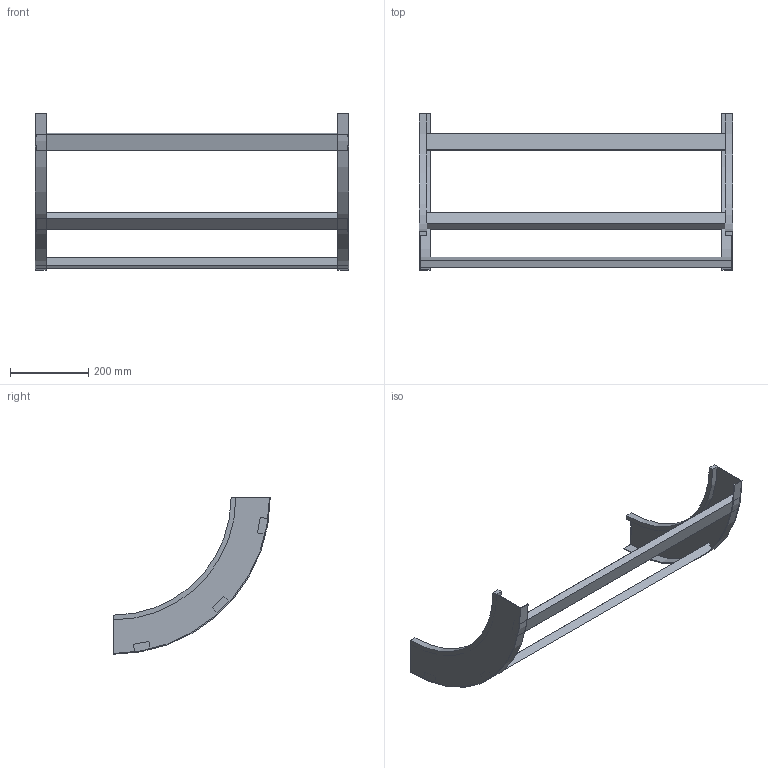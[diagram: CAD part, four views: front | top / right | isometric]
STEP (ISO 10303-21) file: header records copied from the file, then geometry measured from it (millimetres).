
FILE_DESCRIPTION (( 'STEP AP214' ), '1' );
FILE_NAME ('B2X30B3D800XX.step', '2025-03-20T10:20:29', ( '' ), ( '' ), 'SwSTEP 2.0', 'SolidWorks 2023', '' );
FILE_SCHEMA (( 'AUTOMOTIVE_DESIGN' ));
Length unit declared in the file: millimetre
Products named in the file (3): TRAVERSINO_800; B2X30B3D800XX; B2_LONGH.SALITA_90°_H100_R300
Assembly tree (5 placements, depth 2):
  B2X30B3D800XX
    B2_LONGH.SALITA_90°_H100_R300  x2
    TRAVERSINO_800  x3
Bounding box: 800 x 400 x 400 mm (x, y, z)
Volume: 2401441.1 mm3; surface area: 613323 mm2
Topology: 5 solids, 5 shells, 38 faces, 84 edges, 56 vertices
Faces by surface type: plane 30, cylinder 8
Entity records: 560 total; most frequent: DIRECTION 92, CARTESIAN_POINT 84, ORIENTED_EDGE 72, EDGE_CURVE 36, AXIS2_PLACEMENT_3D 32, LINE 28, VECTOR 28, VERTEX_POINT 24
